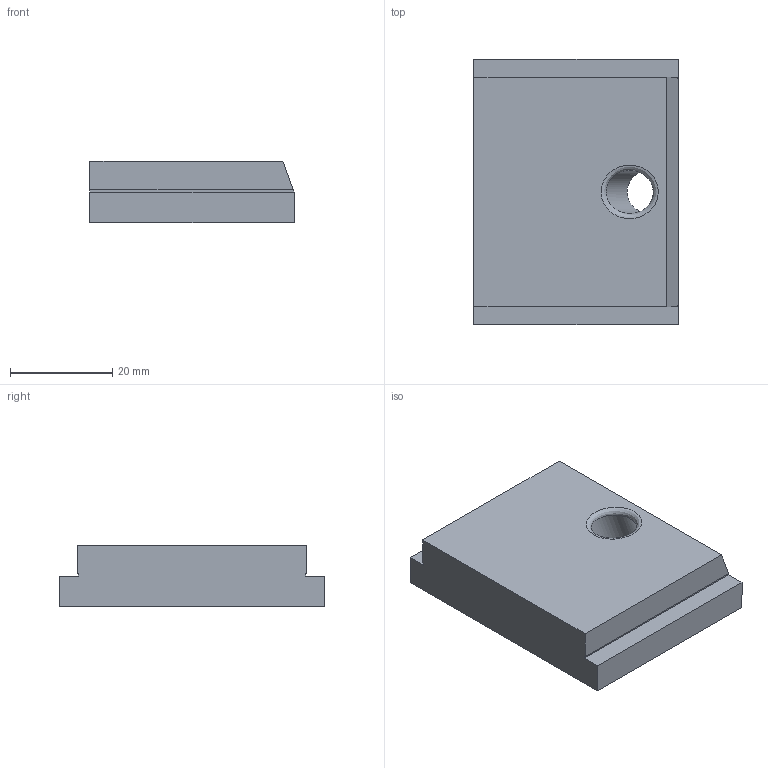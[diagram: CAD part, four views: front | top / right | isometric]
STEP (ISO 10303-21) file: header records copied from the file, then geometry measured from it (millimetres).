
FILE_DESCRIPTION (( 'STEP AP214' ), '1' );
FILE_NAME ('Schieber_-_H12 B45 L40.step', '2024-01-15T11:26:53', ( '' ), ( '' ), 'SwSTEP 2.0', 'SolidWorks 2020', '' );
FILE_SCHEMA (( 'AUTOMOTIVE_DESIGN' ));
Length unit declared in the file: millimetre
Products named in the file (1): Schieber_-_H12 B45 L40
Bounding box: 40 x 52 x 12 mm (x, y, z)
Volume: 22241.7 mm3; surface area: 6446 mm2
Topology: 1 solids, 1 shells, 203 faces, 540 edges, 359 vertices
Faces by surface type: plane 132, bspline 70, cylinder 1
Full cylindrical faces by diameter (mm): 8.5 x1
Entity records: 9890 total; most frequent: CARTESIAN_POINT 5289, ORIENTED_EDGE 1076, DIRECTION 665, EDGE_CURVE 538, LINE 397, VECTOR 397, VERTEX_POINT 359, EDGE_LOOP 227
